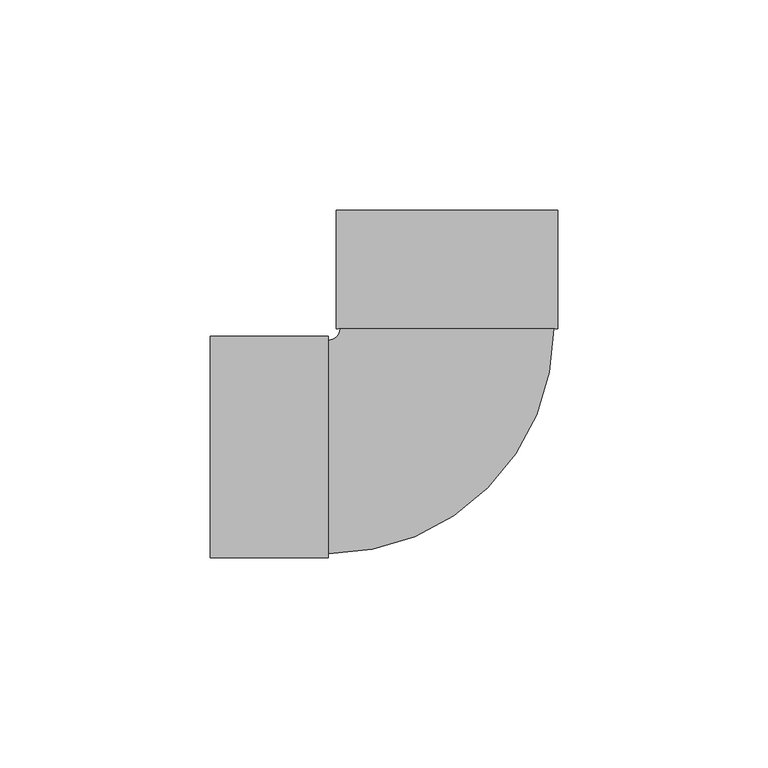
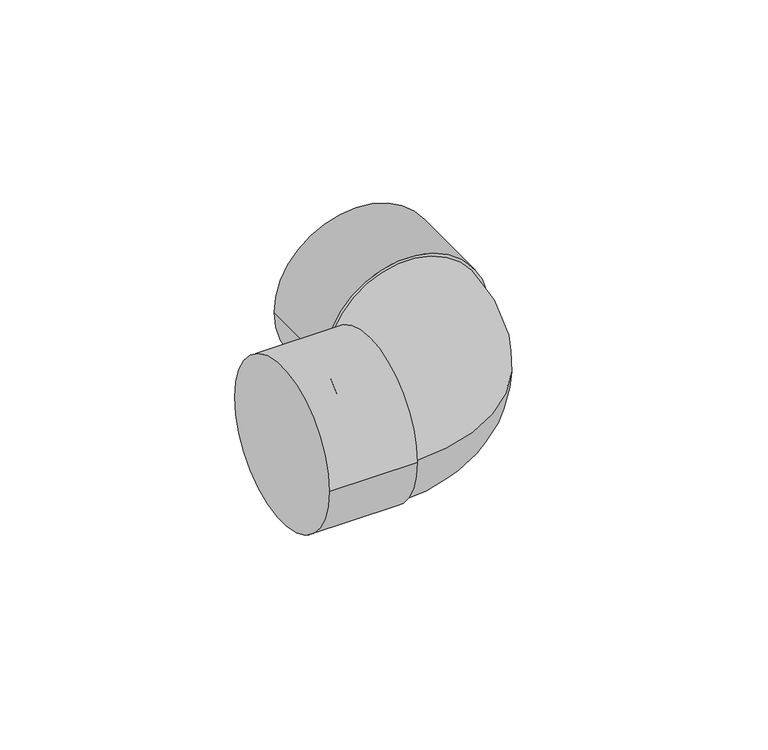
"""IFC4 building model written with IfcOpenShell, lengths in millimetres: pipe fitting geometry, Cotovelo - Soldado - CU : Padrão."""

from ifc_helpers import new_model, si_unit, point, frame, origin, place, context, project, spatial, circle_curve, ellipse_curve, trimmed, source, transform, mapped, element, save
from ifc_brep_helpers import plane_surface, cylinder_surface, revolved_surface, advanced_brep


def pipe_fitting_c294872a(model_context):
    return source(origin(), model_context, "Body", "AdvancedBrep", [
        advanced_brep(
        [(-25.4, 28.148, 0.0), (-28.148, 25.4, 0.0), (-28.148, -25.4, 0.0), (25.4, 28.148, 0.0), (-56.224, -26.308, 0.0), (-56.224, 26.308, 0.0), (-28.148, -26.308, 0.0), (-28.148, 26.308, 0.0), (-26.308, 56.224, 0.0), (26.308, 56.224, 0.0), (-26.308, 28.148, 0.0), (26.308, 28.148, 0.0)],
        [
            (0, 1, circle_curve(frame((-28.148, 28.148, 0.0), z_axis=(0.0, 0.0, -1.0), x_axis=(0.0, -1.0, 0.0)), 2.748)),
            (1, 2, circle_curve(frame((-28.148, 0.0, 0.0), z_axis=(1.0, 0.0, 0.0), x_axis=(0.0, 1.0, 0.0)), 25.4)),
            (2, 3, circle_curve(frame((-28.148, 28.148, 0.0), z_axis=(0.0, 0.0, 1.0), x_axis=(0.0, -1.0, 0.0)), 53.548)),
            (3, 0, circle_curve(frame((0.0, 28.148, 0.0), z_axis=(0.0, -1.0, 0.0), x_axis=(-1.0, 0.0, 0.0)), 25.4)),
            (0, 3, circle_curve(frame((0.0, 28.148, 0.0), z_axis=(0.0, -1.0, 0.0), x_axis=(-1.0, 0.0, 0.0)), 25.4)),
            (2, 1, circle_curve(frame((-28.148, 0.0, 0.0), z_axis=(1.0, 0.0, 0.0), x_axis=(0.0, 1.0, 0.0)), 25.4)),
            (4, 5, circle_curve(frame((-56.224, 0.0, 0.0), z_axis=(-1.0, 0.0, 0.0), x_axis=(0.0, 1.0, 0.0)), 26.308)),
            (5, 4, circle_curve(frame((-56.224, 0.0, 0.0), z_axis=(-1.0, 0.0, 0.0), x_axis=(0.0, 1.0, 0.0)), 26.308)),
            (6, 7, circle_curve(frame((-28.148, 0.0, 0.0), z_axis=(1.0, 0.0, 0.0), x_axis=(0.0, 1.0, 0.0)), 26.308)),
            (7, 6, circle_curve(frame((-28.148, 0.0, 0.0), z_axis=(1.0, 0.0, 0.0), x_axis=(0.0, 1.0, 0.0)), 26.308)),
            (4, 6),
            (7, 5),
            (8, 9, circle_curve(frame((0.0, 56.224, 0.0), z_axis=(0.0, 1.0, 0.0), x_axis=(1.0, 0.0, 0.0)), 26.308)),
            (9, 8, circle_curve(frame((0.0, 56.224, 0.0), z_axis=(0.0, 1.0, 0.0), x_axis=(1.0, 0.0, 0.0)), 26.308)),
            (10, 11, circle_curve(frame((0.0, 28.148, 0.0), z_axis=(0.0, -1.0, 0.0), x_axis=(1.0, 0.0, 0.0)), 26.308)),
            (11, 10, circle_curve(frame((0.0, 28.148, 0.0), z_axis=(0.0, -1.0, 0.0), x_axis=(1.0, 0.0, 0.0)), 26.308)),
            (8, 10),
            (11, 9),
        ],
        [
            revolved_surface(trimmed(ellipse_curve(frame((-28.148, 0.0, 0.0), z_axis=(-1.0, 0.0, 0.0), x_axis=(0.0, 1.0, 0.0)), 25.4, 25.4), [point((-28.148, -25.4, 0.0))], [point((-28.148, 25.4, 0.0))], True, "CARTESIAN"), (-28.148, 28.148, 0.0), (0.0, 0.0, 1.0)),
            revolved_surface(trimmed(ellipse_curve(frame((-28.148, 0.0, 0.0), z_axis=(-1.0, 0.0, 0.0), x_axis=(0.0, 1.0, 0.0)), 25.4, 25.4), [point((-28.148, 25.4, 0.0))], [point((-28.148, -25.4, 0.0))], True, "CARTESIAN"), (-28.148, 28.148, 0.0), (0.0, 0.0, 1.0)),
            plane_surface(frame((-56.224, 0.0, 0.0), z_axis=(-1.0, 0.0, 0.0), x_axis=(0.0, 0.0, 1.0))),
            plane_surface(frame((-28.148, 0.0, 0.0), z_axis=(1.0, 0.0, 0.0), x_axis=(0.0, 0.0, 1.0))),
            cylinder_surface(frame((-56.224, 0.0, 0.0), z_axis=(-1.0, 0.0, 0.0), x_axis=(0.0, 1.0, 0.0)), 26.308),
            plane_surface(frame((0.0, 56.224, 0.0), z_axis=(0.0, 1.0, 0.0), x_axis=(0.0, 0.0, 1.0))),
            plane_surface(frame((0.0, 28.148, 0.0), z_axis=(0.0, -1.0, 0.0), x_axis=(0.0, 0.0, 1.0))),
            cylinder_surface(frame((0.0, 56.224, 0.0), z_axis=(0.0, 1.0, 0.0), x_axis=(1.0, 0.0, 0.0)), 26.308),
        ],
        [
            (0, [[1, 2, 3, 4]]),
            (1, [[-1, 5, -3, 6]]),
            (2, [[7, 8]]),
            (3, [[9, 10], [-2, -6]]),
            (4, [[-7, 11, -10, 12]]),
            (4, [[-8, -12, -9, -11]]),
            (5, [[13, 14]]),
            (6, [[15, 16], [-4, -5]]),
            (7, [[-13, 17, -16, 18]]),
            (7, [[-14, -18, -15, -17]]),
        ],
    ),
    ])


if __name__ == "__main__":
    model = new_model("IFC4")
    model_context = context("Model", 3, world=origin())
    ifc_project = project(units=[si_unit("LENGTHUNIT", "METRE", prefix="MILLI")], contexts=[model_context])
    site = spatial("IfcSite", under=ifc_project)
    building = spatial("IfcBuilding", under=site)
    placement = place(None, origin())
    pipe_fitting_shape = pipe_fitting_c294872a(model_context)
    element("IfcPipeFitting", 1, ObjectType="Cotovelo - Soldado - CU : Padrão", at=placement, inside=building, context=model_context, shape_type="MappedRepresentation", body=[
        mapped(pipe_fitting_shape, transform((0.0, 0.0, 0.0), x_axis=(1.0, 0.0, 0.0), y_axis=(0.0, 1.0, 0.0), z_axis=(0.0, 0.0, 1.0))),
    ])
    save(model, "model.ifc")
